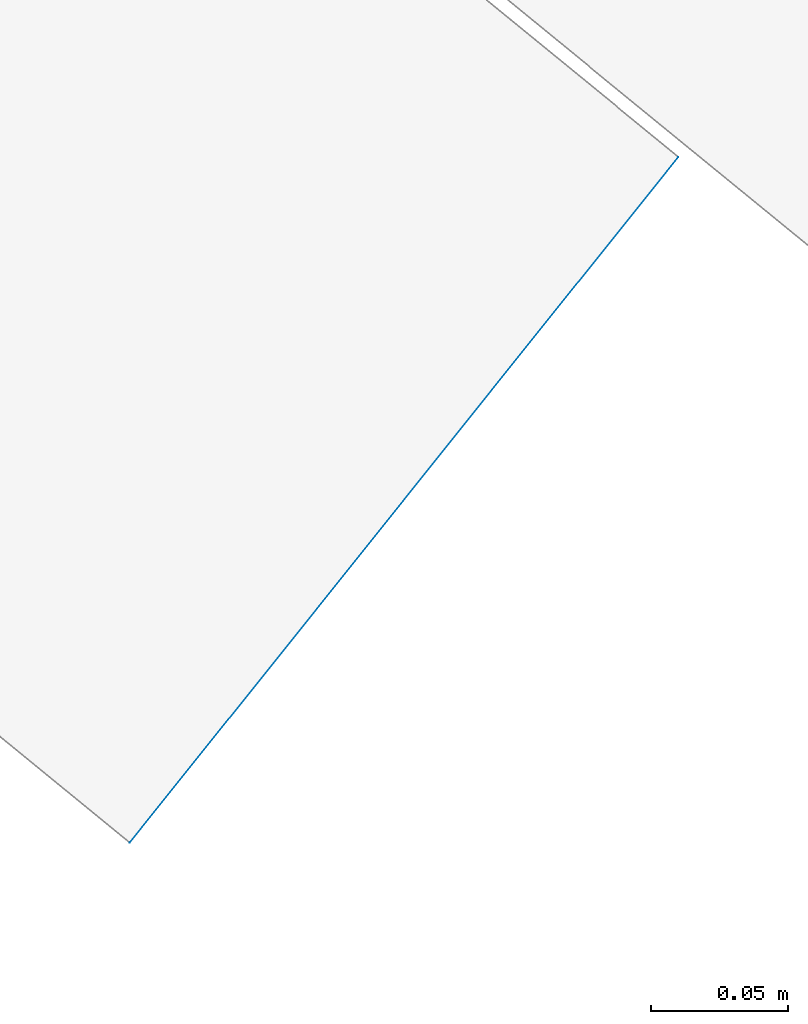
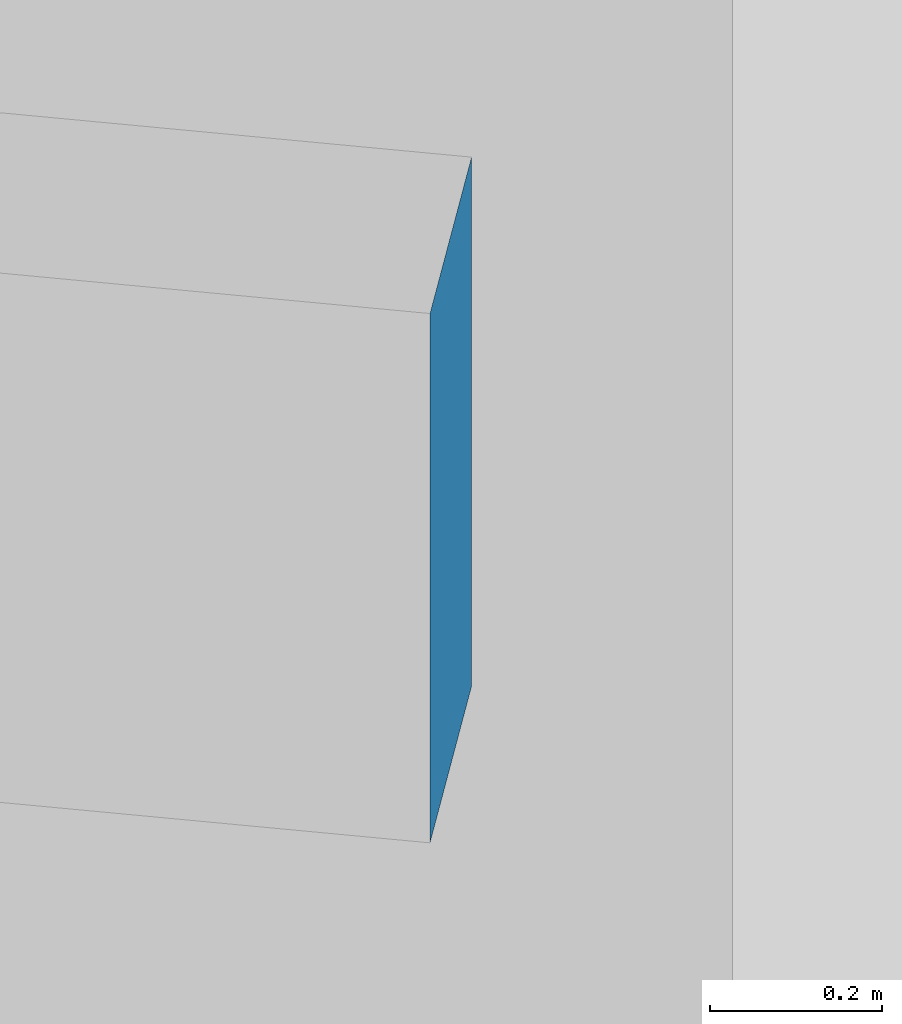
# Not in any storey, part 120 of 136: 2 walls.
"""IFC2X3 building model written with IfcOpenShell, lengths in metres."""

from ifc_helpers import new_model, entity, si_unit, converted_unit, frame, origin, place, context, subcontext, project, spatial, face_set, surface_model, element, save


model = new_model("IFC2X3")

# Units and contexts
model_context = context("Model", 3, precision=1e-05, world=origin())
body_context = subcontext(model_context, "Body", "Model", "MODEL_VIEW")
ifc_project = project(units=[converted_unit("PLANEANGLEUNIT", "DEGREE", entity("IfcRatioMeasure", 0.0174532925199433), si_unit("PLANEANGLEUNIT", "RADIAN"), dimensions=[0, 0, 0, 0, 0, 0, 0]), si_unit("AREAUNIT", "SQUARE_METRE"), si_unit("LENGTHUNIT", "METRE")], contexts=[model_context])

# Site, building
site_placement = place(None, origin())
site = spatial("IfcSite", under=ifc_project, at=site_placement, Name="_site", CompositionType="ELEMENT")
building_placement = place(site_placement, origin())
building = spatial("IfcBuilding", under=site, at=building_placement, Name="_building", CompositionType="ELEMENT")

# Walls
for number, where, name in (
    (1, (0.0, 0.0, 0.0), "Wall"),
    (2, (0.0, 0.0, 0.0), "Wall"),
):
    element("IfcWall", number, at=place(building_placement, frame(where)), inside=building, Name=name, context=body_context, shape_type="SurfaceModel", body=[
        surface_model("IfcFaceBasedSurfaceModel", [(170.69, 117.64, 42.22), (170.49, 117.39, 42.22), (170.49, 117.39, 42.97), (170.69, 117.64, 42.97)], [face_set([[[0, 1, 2, 3]]])]),
    ])

save(model, "model.ifc")
